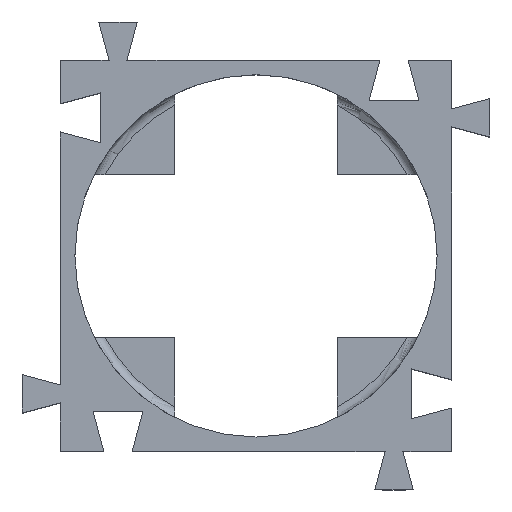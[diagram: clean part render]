
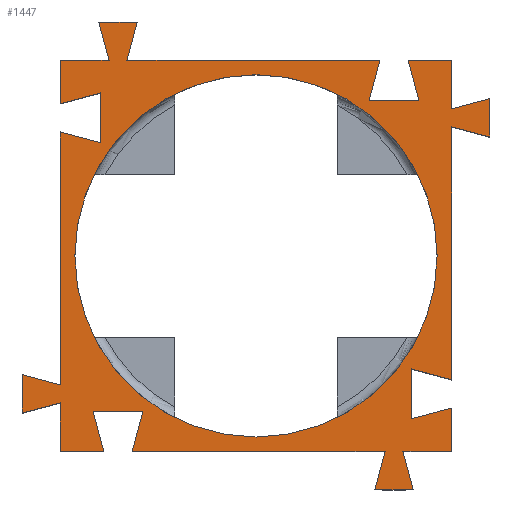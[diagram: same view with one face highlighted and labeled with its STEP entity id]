
A CAD part, top view. The second image highlights one B-rep face of the part: STEP entity #1447.
In plain terms, the highlighted planar face has unit normal (0, 0, 1).
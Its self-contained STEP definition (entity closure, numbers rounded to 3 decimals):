
#15=FACE_BOUND('',#183,.T.);
#30=CIRCLE('',#1520,9.45);
#112=FACE_OUTER_BOUND('',#182,.T.);
#182=EDGE_LOOP('',(#1276,#1277,#1278,#1279,#1280,#1281,#1282,#1283,#1284,
#1285,#1286,#1287,#1288,#1289,#1290,#1291,#1292,#1293,#1294,#1295,#1296,
#1297,#1298,#1299,#1300,#1301,#1302,#1303,#1304,#1305,#1306,#1307,#1308,
#1309,#1310,#1311));
#183=EDGE_LOOP('',(#1312));
#191=LINE('',#1925,#376);
#206=LINE('',#1954,#391);
#223=LINE('',#1990,#408);
#244=LINE('',#2033,#429);
#256=LINE('',#2058,#441);
#271=LINE('',#2087,#456);
#314=LINE('',#2286,#499);
#316=LINE('',#2290,#501);
#318=LINE('',#2294,#503);
#320=LINE('',#2298,#505);
#322=LINE('',#2301,#507);
#323=LINE('',#2304,#508);
#325=LINE('',#2308,#510);
#327=LINE('',#2312,#512);
#329=LINE('',#2316,#514);
#331=LINE('',#2320,#516);
#333=LINE('',#2324,#518);
#335=LINE('',#2327,#520);
#336=LINE('',#2330,#521);
#338=LINE('',#2334,#523);
#340=LINE('',#2338,#525);
#342=LINE('',#2342,#527);
#344=LINE('',#2346,#529);
#346=LINE('',#2350,#531);
#348=LINE('',#2354,#533);
#350=LINE('',#2357,#535);
#351=LINE('',#2360,#536);
#353=LINE('',#2364,#538);
#355=LINE('',#2368,#540);
#357=LINE('',#2372,#542);
#359=LINE('',#2376,#544);
#361=LINE('',#2380,#546);
#363=LINE('',#2384,#548);
#365=LINE('',#2387,#550);
#366=LINE('',#2390,#551);
#368=LINE('',#2393,#553);
#376=VECTOR('',#1565,10.);
#391=VECTOR('',#1586,10.);
#408=VECTOR('',#1609,10.);
#429=VECTOR('',#1638,10.);
#441=VECTOR('',#1656,10.);
#456=VECTOR('',#1677,10.);
#499=VECTOR('',#1792,10.);
#501=VECTOR('',#1796,10.);
#503=VECTOR('',#1800,10.);
#505=VECTOR('',#1804,10.);
#507=VECTOR('',#1808,10.);
#508=VECTOR('',#1811,10.);
#510=VECTOR('',#1815,10.);
#512=VECTOR('',#1819,10.);
#514=VECTOR('',#1823,10.);
#516=VECTOR('',#1827,10.);
#518=VECTOR('',#1831,10.);
#520=VECTOR('',#1835,10.);
#521=VECTOR('',#1838,10.);
#523=VECTOR('',#1842,10.);
#525=VECTOR('',#1846,10.);
#527=VECTOR('',#1850,10.);
#529=VECTOR('',#1854,10.);
#531=VECTOR('',#1858,10.);
#533=VECTOR('',#1862,10.);
#535=VECTOR('',#1866,10.);
#536=VECTOR('',#1869,10.);
#538=VECTOR('',#1873,10.);
#540=VECTOR('',#1877,10.);
#542=VECTOR('',#1881,10.);
#544=VECTOR('',#1885,10.);
#546=VECTOR('',#1889,10.);
#548=VECTOR('',#1893,10.);
#550=VECTOR('',#1897,10.);
#551=VECTOR('',#1900,10.);
#553=VECTOR('',#1904,10.);
#560=VERTEX_POINT('',#1922);
#561=VERTEX_POINT('',#1924);
#572=VERTEX_POINT('',#1952);
#587=VERTEX_POINT('',#1987);
#588=VERTEX_POINT('',#1989);
#605=VERTEX_POINT('',#2030);
#606=VERTEX_POINT('',#2032);
#615=VERTEX_POINT('',#2055);
#616=VERTEX_POINT('',#2057);
#627=VERTEX_POINT('',#2085);
#665=VERTEX_POINT('',#2279);
#666=VERTEX_POINT('',#2283);
#667=VERTEX_POINT('',#2285);
#668=VERTEX_POINT('',#2289);
#669=VERTEX_POINT('',#2293);
#670=VERTEX_POINT('',#2297);
#671=VERTEX_POINT('',#2303);
#672=VERTEX_POINT('',#2307);
#673=VERTEX_POINT('',#2311);
#674=VERTEX_POINT('',#2315);
#675=VERTEX_POINT('',#2319);
#676=VERTEX_POINT('',#2323);
#677=VERTEX_POINT('',#2329);
#678=VERTEX_POINT('',#2333);
#679=VERTEX_POINT('',#2337);
#680=VERTEX_POINT('',#2341);
#681=VERTEX_POINT('',#2345);
#682=VERTEX_POINT('',#2349);
#683=VERTEX_POINT('',#2353);
#684=VERTEX_POINT('',#2359);
#685=VERTEX_POINT('',#2363);
#686=VERTEX_POINT('',#2367);
#687=VERTEX_POINT('',#2371);
#688=VERTEX_POINT('',#2375);
#689=VERTEX_POINT('',#2379);
#690=VERTEX_POINT('',#2383);
#691=VERTEX_POINT('',#2389);
#699=EDGE_CURVE('',#561,#560,#191,.T.);
#714=EDGE_CURVE('',#560,#572,#206,.T.);
#731=EDGE_CURVE('',#588,#587,#223,.T.);
#752=EDGE_CURVE('',#606,#605,#244,.T.);
#764=EDGE_CURVE('',#616,#615,#256,.T.);
#779=EDGE_CURVE('',#615,#627,#271,.T.);
#841=EDGE_CURVE('',#665,#665,#30,.T.);
#844=EDGE_CURVE('',#667,#666,#314,.T.);
#846=EDGE_CURVE('',#668,#667,#316,.T.);
#848=EDGE_CURVE('',#669,#668,#318,.T.);
#850=EDGE_CURVE('',#670,#669,#320,.T.);
#852=EDGE_CURVE('',#627,#670,#322,.T.);
#853=EDGE_CURVE('',#671,#616,#323,.T.);
#855=EDGE_CURVE('',#672,#671,#325,.T.);
#857=EDGE_CURVE('',#673,#672,#327,.T.);
#859=EDGE_CURVE('',#674,#673,#329,.T.);
#861=EDGE_CURVE('',#675,#674,#331,.T.);
#863=EDGE_CURVE('',#676,#675,#333,.T.);
#865=EDGE_CURVE('',#572,#676,#335,.T.);
#866=EDGE_CURVE('',#677,#561,#336,.T.);
#868=EDGE_CURVE('',#678,#677,#338,.T.);
#870=EDGE_CURVE('',#679,#678,#340,.T.);
#872=EDGE_CURVE('',#680,#679,#342,.T.);
#874=EDGE_CURVE('',#681,#680,#344,.T.);
#876=EDGE_CURVE('',#682,#681,#346,.T.);
#878=EDGE_CURVE('',#683,#682,#348,.T.);
#880=EDGE_CURVE('',#587,#683,#350,.T.);
#881=EDGE_CURVE('',#684,#588,#351,.T.);
#883=EDGE_CURVE('',#685,#684,#353,.T.);
#885=EDGE_CURVE('',#686,#685,#355,.T.);
#887=EDGE_CURVE('',#687,#686,#357,.T.);
#889=EDGE_CURVE('',#688,#687,#359,.T.);
#891=EDGE_CURVE('',#689,#688,#361,.T.);
#893=EDGE_CURVE('',#690,#689,#363,.T.);
#895=EDGE_CURVE('',#605,#690,#365,.T.);
#896=EDGE_CURVE('',#691,#606,#366,.T.);
#898=EDGE_CURVE('',#666,#691,#368,.T.);
#1276=ORIENTED_EDGE('',*,*,#898,.T.);
#1277=ORIENTED_EDGE('',*,*,#896,.T.);
#1278=ORIENTED_EDGE('',*,*,#752,.T.);
#1279=ORIENTED_EDGE('',*,*,#895,.T.);
#1280=ORIENTED_EDGE('',*,*,#893,.T.);
#1281=ORIENTED_EDGE('',*,*,#891,.T.);
#1282=ORIENTED_EDGE('',*,*,#889,.T.);
#1283=ORIENTED_EDGE('',*,*,#887,.T.);
#1284=ORIENTED_EDGE('',*,*,#885,.T.);
#1285=ORIENTED_EDGE('',*,*,#883,.T.);
#1286=ORIENTED_EDGE('',*,*,#881,.T.);
#1287=ORIENTED_EDGE('',*,*,#731,.T.);
#1288=ORIENTED_EDGE('',*,*,#880,.T.);
#1289=ORIENTED_EDGE('',*,*,#878,.T.);
#1290=ORIENTED_EDGE('',*,*,#876,.T.);
#1291=ORIENTED_EDGE('',*,*,#874,.T.);
#1292=ORIENTED_EDGE('',*,*,#872,.T.);
#1293=ORIENTED_EDGE('',*,*,#870,.T.);
#1294=ORIENTED_EDGE('',*,*,#868,.T.);
#1295=ORIENTED_EDGE('',*,*,#866,.T.);
#1296=ORIENTED_EDGE('',*,*,#699,.T.);
#1297=ORIENTED_EDGE('',*,*,#714,.T.);
#1298=ORIENTED_EDGE('',*,*,#865,.T.);
#1299=ORIENTED_EDGE('',*,*,#863,.T.);
#1300=ORIENTED_EDGE('',*,*,#861,.T.);
#1301=ORIENTED_EDGE('',*,*,#859,.T.);
#1302=ORIENTED_EDGE('',*,*,#857,.T.);
#1303=ORIENTED_EDGE('',*,*,#855,.T.);
#1304=ORIENTED_EDGE('',*,*,#853,.T.);
#1305=ORIENTED_EDGE('',*,*,#764,.T.);
#1306=ORIENTED_EDGE('',*,*,#779,.T.);
#1307=ORIENTED_EDGE('',*,*,#852,.T.);
#1308=ORIENTED_EDGE('',*,*,#850,.T.);
#1309=ORIENTED_EDGE('',*,*,#848,.T.);
#1310=ORIENTED_EDGE('',*,*,#846,.T.);
#1311=ORIENTED_EDGE('',*,*,#844,.T.);
#1312=ORIENTED_EDGE('',*,*,#841,.T.);
#1377=PLANE('',#1551);
#1447=ADVANCED_FACE('',(#112,#15),#1377,.T.);
#1520=AXIS2_PLACEMENT_3D('',#2280,#1786,#1787);
#1551=AXIS2_PLACEMENT_3D('',#2394,#1905,#1906);
#1565=DIRECTION('',(1.,0.,0.));
#1586=DIRECTION('',(-0.259,0.966,0.));
#1609=DIRECTION('',(0.,-1.,0.));
#1638=DIRECTION('',(-1.,0.,0.));
#1656=DIRECTION('',(0.,1.,0.));
#1677=DIRECTION('',(-0.966,-0.259,0.));
#1786=DIRECTION('center_axis',(0.,0.,-1.));
#1787=DIRECTION('ref_axis',(-1.,0.,0.));
#1792=DIRECTION('',(0.259,0.966,0.));
#1796=DIRECTION('',(-1.,0.,0.));
#1800=DIRECTION('',(0.259,-0.966,0.));
#1804=DIRECTION('',(-1.,0.,0.));
#1808=DIRECTION('',(0.,1.,0.));
#1811=DIRECTION('',(0.966,-0.259,0.));
#1815=DIRECTION('',(0.,1.,0.));
#1819=DIRECTION('',(0.966,-0.259,0.));
#1823=DIRECTION('',(0.,1.,0.));
#1827=DIRECTION('',(-0.966,-0.259,0.));
#1831=DIRECTION('',(0.,1.,0.));
#1835=DIRECTION('',(1.,0.,0.));
#1838=DIRECTION('',(-0.259,-0.966,0.));
#1842=DIRECTION('',(1.,0.,0.));
#1846=DIRECTION('',(-0.259,-0.966,0.));
#1850=DIRECTION('',(1.,0.,0.));
#1854=DIRECTION('',(-0.259,0.966,0.));
#1858=DIRECTION('',(1.,0.,0.));
#1862=DIRECTION('',(0.,-1.,0.));
#1866=DIRECTION('',(0.966,0.259,0.));
#1869=DIRECTION('',(-0.966,0.259,0.));
#1873=DIRECTION('',(0.,-1.,0.));
#1877=DIRECTION('',(-0.966,0.259,0.));
#1881=DIRECTION('',(0.,-1.,0.));
#1885=DIRECTION('',(0.966,0.259,0.));
#1889=DIRECTION('',(0.,-1.,0.));
#1893=DIRECTION('',(-1.,0.,0.));
#1897=DIRECTION('',(0.259,-0.966,0.));
#1900=DIRECTION('',(0.259,0.966,0.));
#1904=DIRECTION('',(-1.,0.,0.));
#1905=DIRECTION('center_axis',(0.,0.,1.));
#1906=DIRECTION('ref_axis',(1.,0.,0.));
#1922=CARTESIAN_POINT('',(8.2,-12.2,7.));
#1924=CARTESIAN_POINT('',(6.2,-12.2,7.));
#1925=CARTESIAN_POINT('',(6.2,-12.2,7.));
#1952=CARTESIAN_POINT('',(7.664,-10.2,7.));
#1954=CARTESIAN_POINT('',(8.2,-12.2,7.));
#1987=CARTESIAN_POINT('',(-12.2,-8.2,7.));
#1989=CARTESIAN_POINT('',(-12.2,-6.2,7.));
#1990=CARTESIAN_POINT('',(-12.2,-6.2,7.));
#2030=CARTESIAN_POINT('',(-8.2,12.2,7.));
#2032=CARTESIAN_POINT('',(-6.2,12.2,7.));
#2033=CARTESIAN_POINT('',(-6.2,12.2,7.));
#2055=CARTESIAN_POINT('',(12.2,8.2,7.));
#2057=CARTESIAN_POINT('',(12.2,6.2,7.));
#2058=CARTESIAN_POINT('',(12.2,6.2,7.));
#2085=CARTESIAN_POINT('',(10.2,7.664,7.));
#2087=CARTESIAN_POINT('',(12.2,8.2,7.));
#2279=CARTESIAN_POINT('',(9.45,0.,7.));
#2280=CARTESIAN_POINT('Origin',(0.,0.,7.));
#2283=CARTESIAN_POINT('',(6.463,10.2,7.));
#2285=CARTESIAN_POINT('',(5.9,8.1,7.));
#2286=CARTESIAN_POINT('',(5.9,8.1,7.));
#2289=CARTESIAN_POINT('',(8.5,8.1,7.));
#2290=CARTESIAN_POINT('',(8.5,8.1,7.));
#2293=CARTESIAN_POINT('',(7.937,10.2,7.));
#2294=CARTESIAN_POINT('',(7.937,10.2,7.));
#2297=CARTESIAN_POINT('',(10.2,10.2,7.));
#2298=CARTESIAN_POINT('',(10.2,10.2,7.));
#2301=CARTESIAN_POINT('',(10.2,-10.2,7.));
#2303=CARTESIAN_POINT('',(10.2,6.736,7.));
#2304=CARTESIAN_POINT('',(10.2,6.736,7.));
#2307=CARTESIAN_POINT('',(10.2,-6.463,7.));
#2308=CARTESIAN_POINT('',(10.2,-10.2,7.));
#2311=CARTESIAN_POINT('',(8.1,-5.9,7.));
#2312=CARTESIAN_POINT('',(8.1,-5.9,7.));
#2315=CARTESIAN_POINT('',(8.1,-8.5,7.));
#2316=CARTESIAN_POINT('',(8.1,-8.5,7.));
#2319=CARTESIAN_POINT('',(10.2,-7.937,7.));
#2320=CARTESIAN_POINT('',(10.2,-7.937,7.));
#2323=CARTESIAN_POINT('',(10.2,-10.2,7.));
#2324=CARTESIAN_POINT('',(10.2,-10.2,7.));
#2327=CARTESIAN_POINT('',(-10.2,-10.2,7.));
#2329=CARTESIAN_POINT('',(6.736,-10.2,7.));
#2330=CARTESIAN_POINT('',(6.736,-10.2,7.));
#2333=CARTESIAN_POINT('',(-6.463,-10.2,7.));
#2334=CARTESIAN_POINT('',(-10.2,-10.2,7.));
#2337=CARTESIAN_POINT('',(-5.9,-8.1,7.));
#2338=CARTESIAN_POINT('',(-5.9,-8.1,7.));
#2341=CARTESIAN_POINT('',(-8.5,-8.1,7.));
#2342=CARTESIAN_POINT('',(-8.5,-8.1,7.));
#2345=CARTESIAN_POINT('',(-7.937,-10.2,7.));
#2346=CARTESIAN_POINT('',(-7.937,-10.2,7.));
#2349=CARTESIAN_POINT('',(-10.2,-10.2,7.));
#2350=CARTESIAN_POINT('',(-10.2,-10.2,7.));
#2353=CARTESIAN_POINT('',(-10.2,-7.664,7.));
#2354=CARTESIAN_POINT('',(-10.2,10.2,7.));
#2357=CARTESIAN_POINT('',(-12.2,-8.2,7.));
#2359=CARTESIAN_POINT('',(-10.2,-6.736,7.));
#2360=CARTESIAN_POINT('',(-10.2,-6.736,7.));
#2363=CARTESIAN_POINT('',(-10.2,6.463,7.));
#2364=CARTESIAN_POINT('',(-10.2,10.2,7.));
#2367=CARTESIAN_POINT('',(-8.1,5.9,7.));
#2368=CARTESIAN_POINT('',(-8.1,5.9,7.));
#2371=CARTESIAN_POINT('',(-8.1,8.5,7.));
#2372=CARTESIAN_POINT('',(-8.1,8.5,7.));
#2375=CARTESIAN_POINT('',(-10.2,7.937,7.));
#2376=CARTESIAN_POINT('',(-10.2,7.937,7.));
#2379=CARTESIAN_POINT('',(-10.2,10.2,7.));
#2380=CARTESIAN_POINT('',(-10.2,10.2,7.));
#2383=CARTESIAN_POINT('',(-7.664,10.2,7.));
#2384=CARTESIAN_POINT('',(10.2,10.2,7.));
#2387=CARTESIAN_POINT('',(-8.2,12.2,7.));
#2389=CARTESIAN_POINT('',(-6.736,10.2,7.));
#2390=CARTESIAN_POINT('',(-6.736,10.2,7.));
#2393=CARTESIAN_POINT('',(10.2,10.2,7.));
#2394=CARTESIAN_POINT('Origin',(0.,0.,7.));
